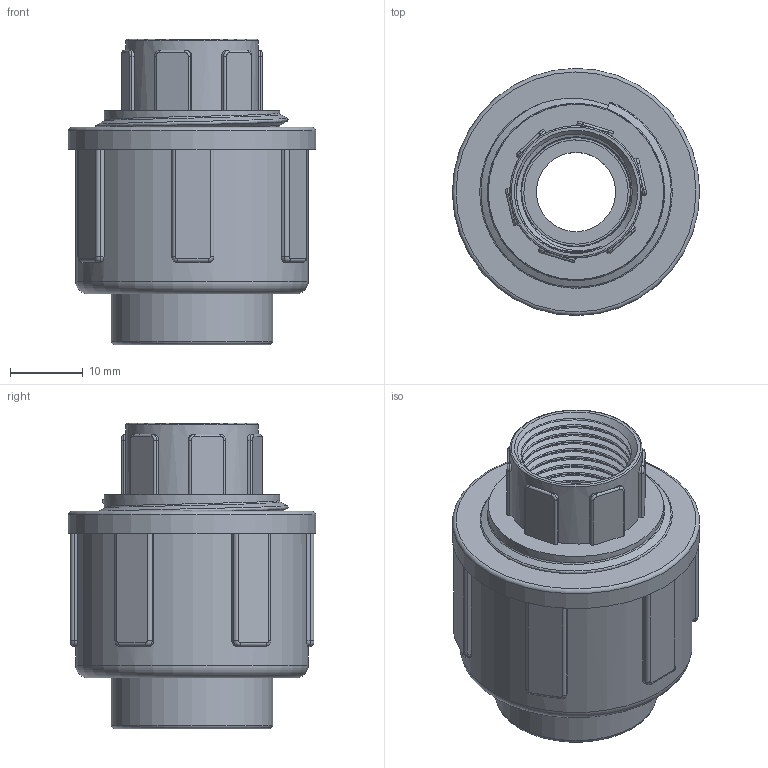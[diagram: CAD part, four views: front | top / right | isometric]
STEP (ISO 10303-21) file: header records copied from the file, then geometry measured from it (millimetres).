
FILE_DESCRIPTION(/* description */ (''),/* implementation_level */ '2;1');
FILE_NAME(/* name */ 'C:\Users\POLYPIPE\Desktop\DATASET INVENTOR\LIBRERIA EFFAST\3D_RACCORDI\RGR\3D_RGRBOG\3D_RGRBOG016A.stp',/* time_stamp */ '2018-01-22T14:30:35+01:00',/* author */ ('POLYPIPE'),/* organization */ (''),/* preprocessor_version */ 'ST-DEVELOPER v16.1',/* originating_system */ 'Autodesk Inventor 2016',/* authorisation */ '');
FILE_SCHEMA (('CONFIG_CONTROL_DESIGN'));
Length unit declared in the file: centimetre
Products named in the file (1): 3D_RGRBOG
Bounding box: 34 x 34 x 42 mm (x, y, z)
Volume: 18243.7 mm3; surface area: 9848.1 mm2
Topology: 1 solids, 1 shells, 183 faces, 459 edges, 287 vertices
Faces by surface type: cylinder 80, plane 64, bspline 22, torus 16, cone 1
Full cylindrical faces by diameter (mm): 10.9 x1, 12 x1, 14.35 x1, 14.95 x1, 16 x1, 18.2 x1, 22.2 x1, 22.3 x1, 24 x1, 24.117 x2, 24.5 x6, 32 x1, 34 x1
Entity records: 10811 total; most frequent: CARTESIAN_POINT 6519, DIRECTION 862, ORIENTED_EDGE 834, EDGE_CURVE 417, AXIS2_PLACEMENT_3D 336, VERTEX_POINT 268, EDGE_LOOP 207, LINE 190
